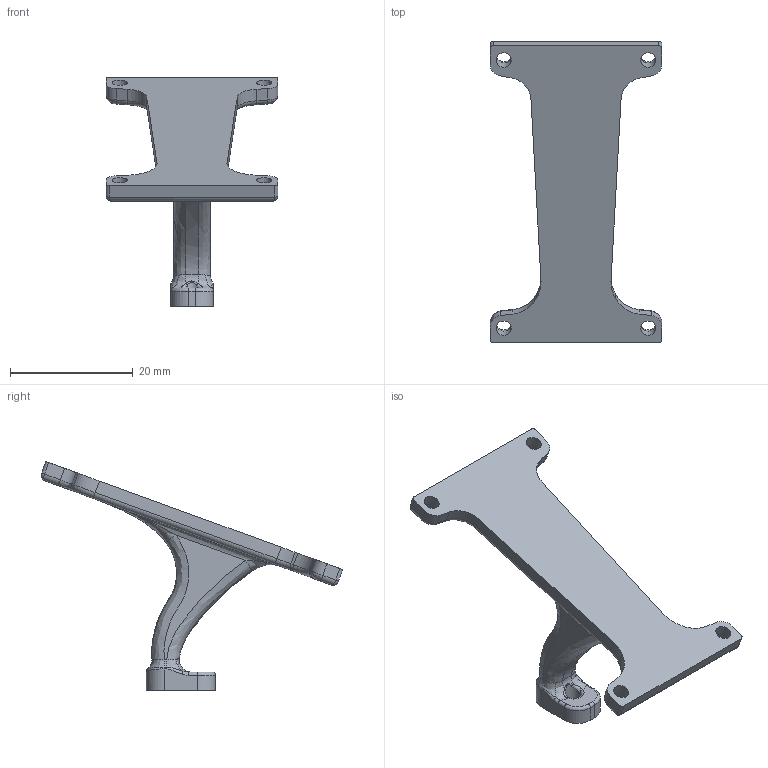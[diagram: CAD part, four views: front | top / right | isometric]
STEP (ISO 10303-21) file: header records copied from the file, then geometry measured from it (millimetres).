
FILE_DESCRIPTION(/* description */ (''),/* implementation_level */ '2;1');
FILE_NAME(/* name */ 'ESP SUPPORT.step',/* time_stamp */ '2026-07-11T14:33:57+01:00',/* author */ (''),/* organization */ (''),/* preprocessor_version */ 'ST-DEVELOPER v20.1',/* originating_system */ 'Autodesk Translation Framework v15.8.0.0',/* authorisation */ '');
FILE_SCHEMA (('AUTOMOTIVE_DESIGN { 1 0 10303 214 3 1 1 }'));
Length unit declared in the file: millimetre
Products named in the file (1): ESP SUPPORT
Bounding box: 28 x 49.15 x 37.32 mm (x, y, z)
Volume: 3690.1 mm3; surface area: 2859.1 mm2
Topology: 1 solids, 1 shells, 135 faces, 337 edges, 192 vertices
Faces by surface type: cylinder 50, bspline 48, plane 28, torus 9
Full cylindrical faces by diameter (mm): 2.5 x5, 2.75 x4
Entity records: 5341 total; most frequent: CARTESIAN_POINT 2354, ORIENTED_EDGE 650, DIRECTION 561, EDGE_CURVE 325, AXIS2_PLACEMENT_3D 225, VERTEX_POINT 192, EDGE_LOOP 145, FACE_OUTER_BOUND 135
